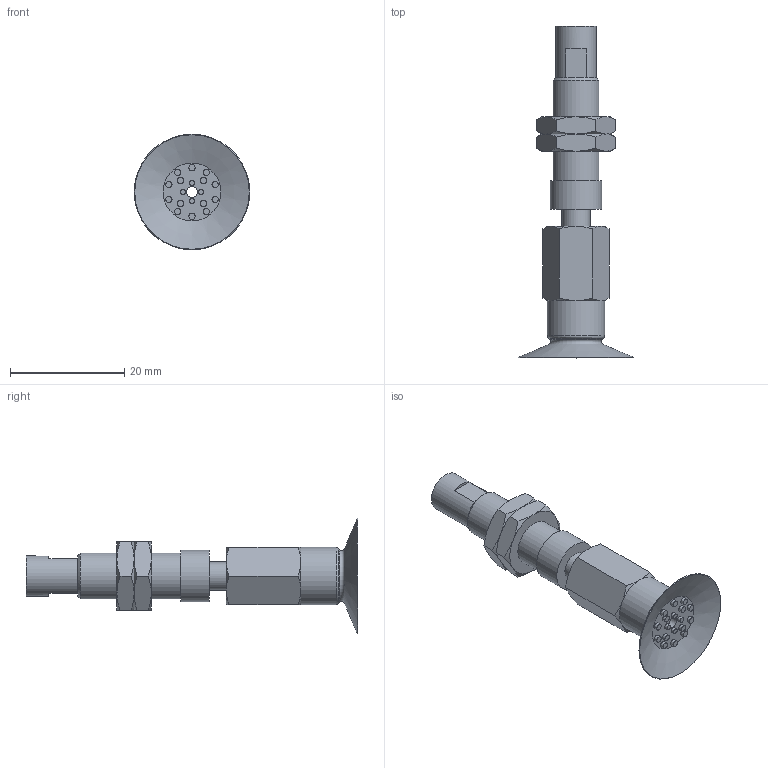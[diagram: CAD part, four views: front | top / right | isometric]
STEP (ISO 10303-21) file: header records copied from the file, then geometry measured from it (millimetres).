
FILE_DESCRIPTION(('STEP AP203'),'1');
FILE_NAME('.stp','2025-08-26T08:54:26',(' '),(' '),'Spatial InterOp 3D',' ',' ');
FILE_SCHEMA(('CONFIG_CONTROL_DESIGN'));
Length unit declared in the file: millimetre
Products named in the file (6): BNABPATS-20A-3-※; ADAPTER; NAPATS-10A-3--M; NAPATS-20A-3--F; Nut-10A-S; BPAG-20A-※_3D
Assembly tree (6 placements, depth 2):
  BNABPATS-20A-3-※
    ADAPTER
    NAPATS-10A-3--M
    NAPATS-20A-3--F
    Nut-10A-S  x2
    BPAG-20A-※_3D
Bounding box: 20.19 x 58 x 20.19 mm (x, y, z)
Volume: 3706 mm3; surface area: 4510.1 mm2
Topology: 6 solids, 6 shells, 149 faces, 290 edges, 178 vertices
Faces by surface type: plane 59, cone 46, cylinder 34, torus 10
Full cylindrical faces by diameter (mm): 0.9 x4, 1.1 x14, 2 x3, 4 x2, 4.134 x1, 5 x2, 6 x2, 7 x1, 7.188 x2, 8 x1, 9 x1, 10 x1
Entity records: 3364 total; most frequent: CARTESIAN_POINT 743, DIRECTION 510, ORIENTED_EDGE 362, AXIS2_PLACEMENT_3D 244, EDGE_LOOP 212, EDGE_CURVE 181, FACE_OUTER_BOUND 169, VERTEX_POINT 141
